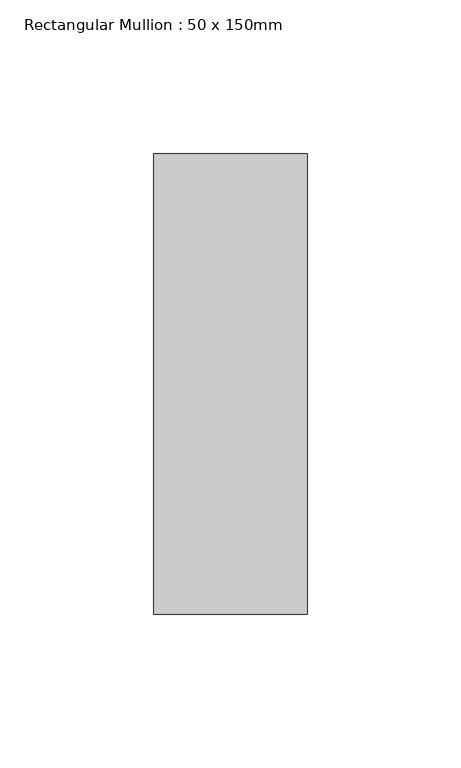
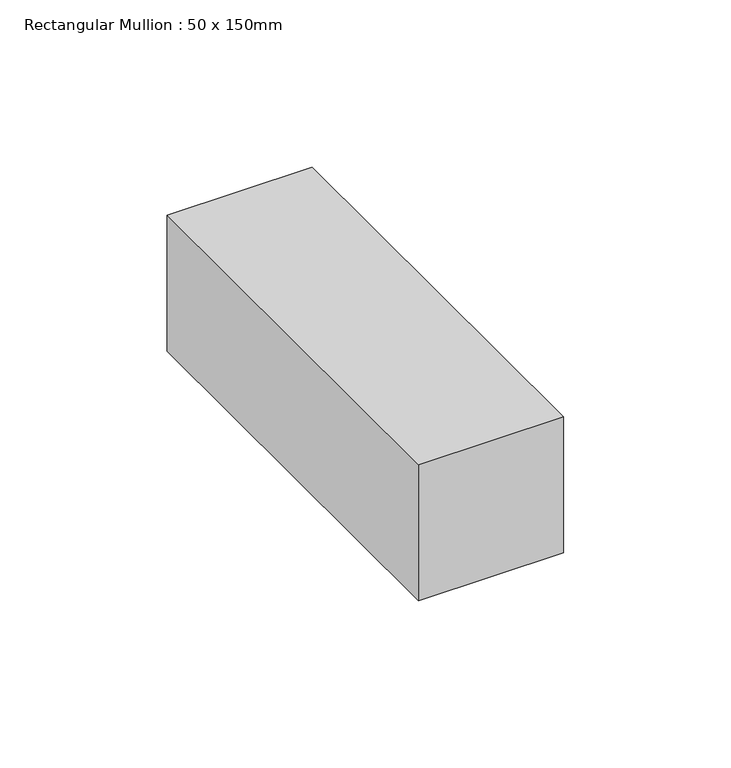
"""IFC4 building model written with IfcOpenShell, lengths in millimetres: member geometry, Rectangular Mullion : 50 x 150mm."""

from ifc_helpers import new_model, si_unit, frame, origin, place, context, project, spatial, polyline, outline, extrude, source, transform, mapped, element, save


def rectangular_mullion_50_x_150mm_f1fdaf0a(model_context):
    return source(origin(), model_context, "Body", "SweptSolid", [
        extrude(outline(polyline([(0.0, 75.0), (0.0, -75.0), (-50.0, -75.0), (-50.0, 75.0), (0.0, 75.0)])), frame((0.0, 0.0, -49.4427191), z_axis=(0.0, 0.0, 1.0), x_axis=(1.0, 0.0, 0.0)), (0.0, 0.0, 1.0), 49.4427191),
    ])


if __name__ == "__main__":
    model = new_model("IFC4")
    model_context = context("Model", 3, world=origin())
    ifc_project = project(units=[si_unit("LENGTHUNIT", "METRE", prefix="MILLI")], contexts=[model_context])
    site = spatial("IfcSite", under=ifc_project)
    building = spatial("IfcBuilding", under=site)
    placement = place(None, origin())
    rectangular_mullion_50_x_150mm_shape = rectangular_mullion_50_x_150mm_f1fdaf0a(model_context)
    element("IfcMember", 1, ObjectType="Rectangular Mullion : 50 x 150mm", at=placement, inside=building, context=model_context, shape_type="MappedRepresentation", body=[
        mapped(rectangular_mullion_50_x_150mm_shape, transform((0.0, 0.0, 0.0), x_axis=(1.0, 0.0, 0.0), y_axis=(0.0, 1.0, 0.0), z_axis=(0.0, 0.0, 1.0))),
    ])
    save(model, "model.ifc")
